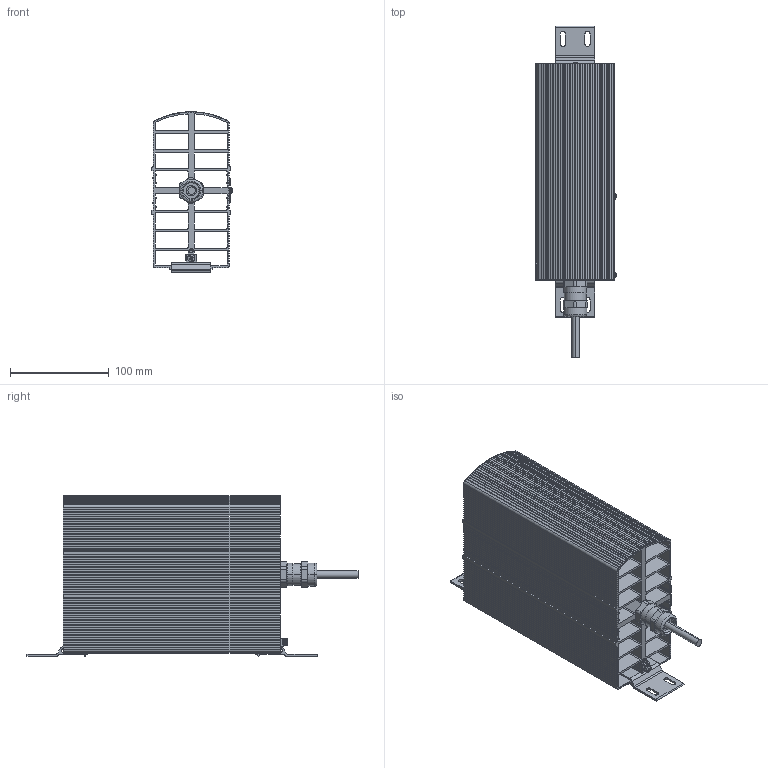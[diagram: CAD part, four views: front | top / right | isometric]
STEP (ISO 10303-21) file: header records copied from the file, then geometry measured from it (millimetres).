
FILE_DESCRIPTION (( 'STEP AP214' ), '1' );
FILE_NAME ('02035.x-1x_Ex-Heizgeraet.STEP', '2017-08-09T08:48:22', ( '' ), ( '' ), 'SwSTEP 2.0', 'SolidWorks 2017', '' );
FILE_SCHEMA (( 'AUTOMOTIVE_DESIGN' ));
Length unit declared in the file: millimetre
Products named in the file (1): 02035.x-1x_Ex-Heizgeraet
Bounding box: 81.66 x 337 x 162.8 mm (x, y, z)
Surface area: 481919.8 mm2 (no closed solid volume)
Topology: 0 solids, 14 shells, 807 faces, 3128 edges, 2168 vertices
Faces by surface type: plane 602, cylinder 178, torus 14, cone 6, sphere 6, bspline 1
Entity records: 41525 total; most frequent: CARTESIAN_POINT 6694, ORIENTED_EDGE 5210, DIRECTION 5108, EDGE_CURVE 3128, LINE 2590, VECTOR 2590, VERTEX_POINT 2168, AXIS2_PLACEMENT_3D 1259
